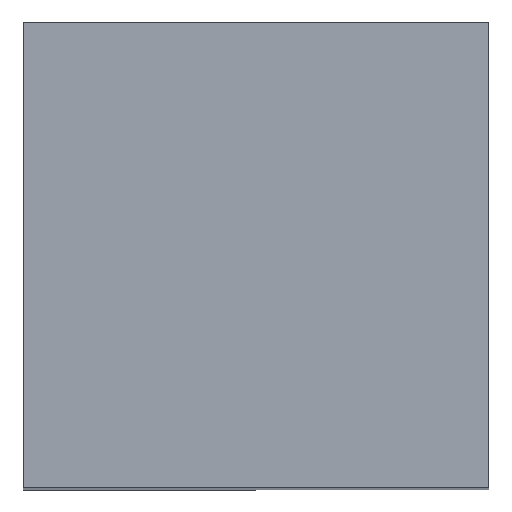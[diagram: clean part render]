
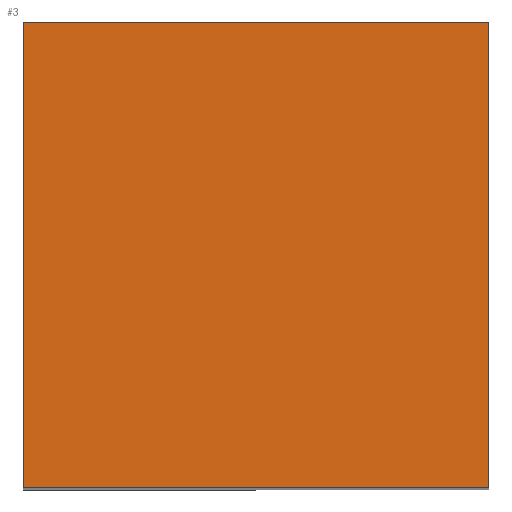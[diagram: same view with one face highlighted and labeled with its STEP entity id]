
A CAD part, top view. The second image highlights one B-rep face of the part: STEP entity #3.
In plain terms, the highlighted planar face has unit normal (0, 0, 1).
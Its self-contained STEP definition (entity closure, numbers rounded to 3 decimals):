
#3 = ADVANCED_FACE ( 'NONE', ( #175 ), #102, .T. ) ;
#15 = DIRECTION ( 'NONE',  ( -1., 0., 0. ) ) ;
#16 = CARTESIAN_POINT ( 'NONE',  ( 0., 250., 900. ) ) ;
#18 = CARTESIAN_POINT ( 'NONE',  ( 0., 0., 900. ) ) ;
#34 = ORIENTED_EDGE ( 'NONE', *, *, #212, .T. ) ;
#37 = DIRECTION ( 'NONE',  ( 0., 1., 0. ) ) ;
#39 = LINE ( 'NONE', #199, #194 ) ;
#48 = VERTEX_POINT ( 'NONE', #157 ) ;
#72 = DIRECTION ( 'NONE',  ( 1., 0., 0. ) ) ;
#74 = DIRECTION ( 'NONE',  ( 0., 1., 0. ) ) ;
#77 = EDGE_CURVE ( 'NONE', #105, #154, #126, .T. ) ;
#80 = VECTOR ( 'NONE', #74, 1000. ) ;
#90 = VECTOR ( 'NONE', #37, 1000. ) ;
#92 = DIRECTION ( 'NONE',  ( -1., 0., 0. ) ) ;
#94 = CARTESIAN_POINT ( 'NONE',  ( 0., 0., 900. ) ) ;
#99 = EDGE_CURVE ( 'NONE', #48, #154, #214, .T. ) ;
#102 = PLANE ( 'NONE',  #119 ) ;
#105 = VERTEX_POINT ( 'NONE', #142 ) ;
#106 = VECTOR ( 'NONE', #15, 1000. ) ;
#108 = CARTESIAN_POINT ( 'NONE',  ( -250., 250., 900. ) ) ;
#118 = DIRECTION ( 'NONE',  ( 0., 0., 1. ) ) ;
#119 = AXIS2_PLACEMENT_3D ( 'NONE', #173, #118, #72 ) ;
#120 = ORIENTED_EDGE ( 'NONE', *, *, #99, .T. ) ;
#126 = LINE ( 'NONE', #196, #90 ) ;
#136 = VERTEX_POINT ( 'NONE', #94 ) ;
#140 = ORIENTED_EDGE ( 'NONE', *, *, #171, .F. ) ;
#142 = CARTESIAN_POINT ( 'NONE',  ( -250., 0., 900. ) ) ;
#154 = VERTEX_POINT ( 'NONE', #108 ) ;
#157 = CARTESIAN_POINT ( 'NONE',  ( 0., 250., 900. ) ) ;
#171 = EDGE_CURVE ( 'NONE', #136, #105, #39, .T. ) ;
#173 = CARTESIAN_POINT ( 'NONE',  ( 0., 0., 900. ) ) ;
#175 = FACE_OUTER_BOUND ( 'NONE', #223, .T. ) ;
#194 = VECTOR ( 'NONE', #92, 1000. ) ;
#196 = CARTESIAN_POINT ( 'NONE',  ( -250., 0., 900. ) ) ;
#199 = CARTESIAN_POINT ( 'NONE',  ( 0., 0., 900. ) ) ;
#201 = ORIENTED_EDGE ( 'NONE', *, *, #77, .F. ) ;
#212 = EDGE_CURVE ( 'NONE', #136, #48, #229, .T. ) ;
#214 = LINE ( 'NONE', #16, #106 ) ;
#223 = EDGE_LOOP ( 'NONE', ( #34, #120, #201, #140 ) ) ;
#229 = LINE ( 'NONE', #18, #80 ) ;
